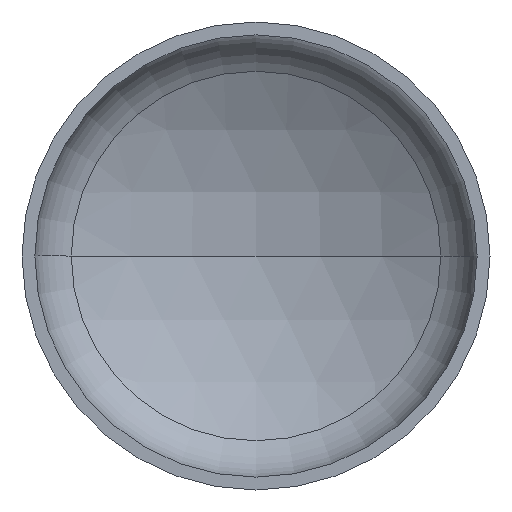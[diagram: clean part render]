
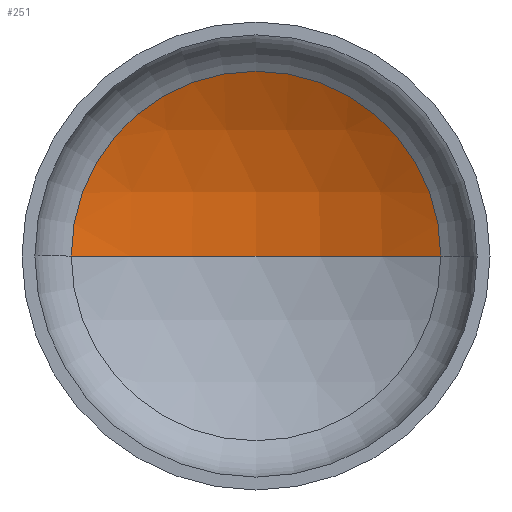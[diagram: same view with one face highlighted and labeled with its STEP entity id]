
A CAD part, front view. The second image highlights one B-rep face of the part: STEP entity #251.
In plain terms, the highlighted spherical face has radius 406 mm.
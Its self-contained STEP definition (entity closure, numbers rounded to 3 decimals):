
#21 = VERTEX_POINT ( 'NONE', #291 ) ;
#32 = ORIENTED_EDGE ( 'NONE', *, *, #173, .T. ) ;
#35 = VERTEX_POINT ( 'NONE', #106 ) ;
#55 = CARTESIAN_POINT ( 'NONE',  ( 200.524, 112.822, 0. ) ) ;
#61 = ORIENTED_EDGE ( 'NONE', *, *, #175, .T. ) ;
#64 = VERTEX_POINT ( 'NONE', #55 ) ;
#74 = DIRECTION ( 'NONE',  ( 0., -1., 0. ) ) ;
#80 = EDGE_LOOP ( 'NONE', ( #400, #61, #32 ) ) ;
#93 = AXIS2_PLACEMENT_3D ( 'NONE', #187, #300, #143 ) ;
#102 = AXIS2_PLACEMENT_3D ( 'NONE', #172, #206, #203 ) ;
#106 = CARTESIAN_POINT ( 'NONE',  ( -200.524, 112.822, 0. ) ) ;
#110 = AXIS2_PLACEMENT_3D ( 'NONE', #386, #246, #126 ) ;
#116 = AXIS2_PLACEMENT_3D ( 'NONE', #224, #74, #384 ) ;
#126 = DIRECTION ( 'NONE',  ( -1., 0., 0. ) ) ;
#143 = DIRECTION ( 'NONE',  ( -1., 0., 0. ) ) ;
#172 = CARTESIAN_POINT ( 'NONE',  ( 0., -240.202, 0. ) ) ;
#173 = EDGE_CURVE ( 'NONE', #64, #35, #377, .T. ) ;
#175 = EDGE_CURVE ( 'NONE', #21, #64, #265, .T. ) ;
#178 = EDGE_CURVE ( 'NONE', #21, #35, #312, .T. ) ;
#187 = CARTESIAN_POINT ( 'NONE',  ( 0., -240.202, 0. ) ) ;
#203 = DIRECTION ( 'NONE',  ( 1., 0., 0. ) ) ;
#206 = DIRECTION ( 'NONE',  ( 0., 0., 1. ) ) ;
#224 = CARTESIAN_POINT ( 'NONE',  ( 0., 112.822, 0. ) ) ;
#246 = DIRECTION ( 'NONE',  ( 0., 0., -1. ) ) ;
#251 = ADVANCED_FACE ( 'NONE', ( #361 ), #307, .F. ) ;
#265 = CIRCLE ( 'NONE', #110, 406. ) ;
#291 = CARTESIAN_POINT ( 'NONE',  ( 0., 165.798, 0. ) ) ;
#300 = DIRECTION ( 'NONE',  ( 0., 0., -1. ) ) ;
#307 = SPHERICAL_SURFACE ( 'NONE', #93, 406. ) ;
#312 = CIRCLE ( 'NONE', #102, 406. ) ;
#361 = FACE_OUTER_BOUND ( 'NONE', #80, .T. ) ;
#377 = CIRCLE ( 'NONE', #116, 200.524 ) ;
#384 = DIRECTION ( 'NONE',  ( 1., 0., 0. ) ) ;
#386 = CARTESIAN_POINT ( 'NONE',  ( 0., -240.202, 0. ) ) ;
#400 = ORIENTED_EDGE ( 'NONE', *, *, #178, .F. ) ;
